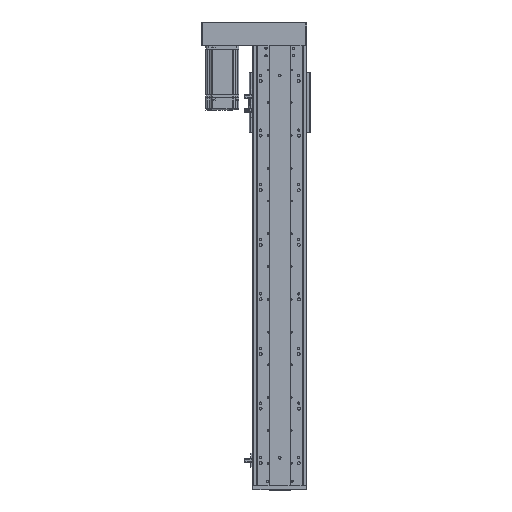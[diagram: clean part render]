
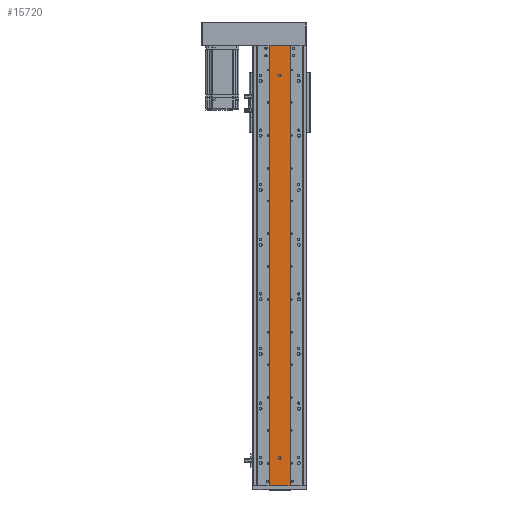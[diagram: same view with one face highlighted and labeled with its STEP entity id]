
A CAD part, top view. The second image highlights one B-rep face of the part: STEP entity #15720.
In plain terms, the highlighted planar face has unit normal (0, 0, 1).
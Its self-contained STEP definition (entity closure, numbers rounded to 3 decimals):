
#2155 = VERTEX_POINT ( 'NONE', #5164 ) ;
#2215 = VERTEX_POINT ( 'NONE', #5266 ) ;
#2227 = VERTEX_POINT ( 'NONE', #5229 ) ;
#2230 = VERTEX_POINT ( 'NONE', #5246 ) ;
#5164 = CARTESIAN_POINT ( 'NONE',  ( -10607.079, 806., -17040.86 ) ) ;
#5229 = CARTESIAN_POINT ( 'NONE',  ( -10645.079, 806., -17040.86 ) ) ;
#5246 = CARTESIAN_POINT ( 'NONE',  ( -10645.079, 0., -17040.86 ) ) ;
#5266 = CARTESIAN_POINT ( 'NONE',  ( -10607.079, 0., -17040.86 ) ) ;
#6602 = DIRECTION ( 'NONE',  ( -1., 0., 0. ) ) ;
#6621 = CARTESIAN_POINT ( 'NONE',  ( -10626.079, 751., -17040.86 ) ) ;
#6630 = DIRECTION ( 'NONE',  ( 0., 0., -1. ) ) ;
#8585 = DIRECTION ( 'NONE',  ( 0., 0., -1. ) ) ;
#8596 = CARTESIAN_POINT ( 'NONE',  ( -10626.079, 51., -17040.86 ) ) ;
#8599 = DIRECTION ( 'NONE',  ( -1., 0., 0. ) ) ;
#15720 = ADVANCED_FACE ( 'NONE', ( #31021, #31036, #31025 ), #27833, .F. ) ;
#17073 = LINE ( 'NONE', #18902, #17115 ) ;
#17115 = VECTOR ( 'NONE', #18899, 1000. ) ;
#17774 = CARTESIAN_POINT ( 'NONE',  ( -10628.579, 51., -17040.86 ) ) ;
#17969 = CARTESIAN_POINT ( 'NONE',  ( -10645.079, 0., -17040.86 ) ) ;
#17988 = DIRECTION ( 'NONE',  ( 1., 0., 0. ) ) ;
#18037 = DIRECTION ( 'NONE',  ( 0., 0., -1. ) ) ;
#18057 = DIRECTION ( 'NONE',  ( -1., 0., 0. ) ) ;
#18058 = CARTESIAN_POINT ( 'NONE',  ( -10626.079, 751., -17040.86 ) ) ;
#18067 = CARTESIAN_POINT ( 'NONE',  ( -10645.079, 806., -17040.86 ) ) ;
#18075 = CARTESIAN_POINT ( 'NONE',  ( -10626.079, 51., -17040.86 ) ) ;
#18079 = CARTESIAN_POINT ( 'NONE',  ( -10645.079, 806., -17040.86 ) ) ;
#18081 = DIRECTION ( 'NONE',  ( 0., 0., -1. ) ) ;
#18082 = DIRECTION ( 'NONE',  ( -1., 0., 0. ) ) ;
#18086 = DIRECTION ( 'NONE',  ( 0., -1., 0. ) ) ;
#18091 = DIRECTION ( 'NONE',  ( 1., 0., 0. ) ) ;
#18899 = DIRECTION ( 'NONE',  ( 0., -1., 0. ) ) ;
#18902 = CARTESIAN_POINT ( 'NONE',  ( -10607.079, 806., -17040.86 ) ) ;
#19669 = EDGE_LOOP ( 'NONE', ( #44156, #44072 ) ) ;
#19681 = EDGE_LOOP ( 'NONE', ( #44184, #44040 ) ) ;
#19745 = EDGE_LOOP ( 'NONE', ( #44012, #44143, #44119, #44029 ) ) ;
#21009 = AXIS2_PLACEMENT_3D ( 'NONE', #27824, #27807, #27830 ) ;
#21280 = AXIS2_PLACEMENT_3D ( 'NONE', #18075, #18081, #18082 ) ;
#21291 = AXIS2_PLACEMENT_3D ( 'NONE', #18058, #18037, #18057 ) ;
#26365 = CARTESIAN_POINT ( 'NONE',  ( -10623.579, 751., -17040.86 ) ) ;
#26374 = CARTESIAN_POINT ( 'NONE',  ( -10623.579, 51., -17040.86 ) ) ;
#26382 = CARTESIAN_POINT ( 'NONE',  ( -10628.579, 751., -17040.86 ) ) ;
#27807 = DIRECTION ( 'NONE',  ( 0., 0., -1. ) ) ;
#27824 = CARTESIAN_POINT ( 'NONE',  ( -10645.079, 806., -17040.86 ) ) ;
#27830 = DIRECTION ( 'NONE',  ( -1., 0., 0. ) ) ;
#27833 = PLANE ( 'NONE',  #21009 ) ;
#28138 = CIRCLE ( 'NONE', #47214, 2.5 ) ;
#28280 = CIRCLE ( 'NONE', #47260, 2.5 ) ;
#31021 = FACE_BOUND ( 'NONE', #19681, .T. ) ;
#31025 = FACE_OUTER_BOUND ( 'NONE', #19745, .T. ) ;
#31036 = FACE_BOUND ( 'NONE', #19669, .T. ) ;
#33769 = LINE ( 'NONE', #17969, #33777 ) ;
#33777 = VECTOR ( 'NONE', #17988, 1000. ) ;
#33807 = VECTOR ( 'NONE', #18091, 1000. ) ;
#33811 = VECTOR ( 'NONE', #18086, 1000. ) ;
#33830 = CIRCLE ( 'NONE', #21280, 2.5 ) ;
#33831 = LINE ( 'NONE', #18079, #33811 ) ;
#33833 = CIRCLE ( 'NONE', #21291, 2.5 ) ;
#33855 = LINE ( 'NONE', #18067, #33807 ) ;
#35723 = VERTEX_POINT ( 'NONE', #26365 ) ;
#35790 = VERTEX_POINT ( 'NONE', #26374 ) ;
#35798 = VERTEX_POINT ( 'NONE', #26382 ) ;
#35809 = VERTEX_POINT ( 'NONE', #17774 ) ;
#35980 = EDGE_CURVE ( 'NONE', #2230, #2215, #33769, .T. ) ;
#36003 = EDGE_CURVE ( 'NONE', #35798, #35723, #33833, .T. ) ;
#36016 = EDGE_CURVE ( 'NONE', #2227, #2155, #33855, .T. ) ;
#36017 = EDGE_CURVE ( 'NONE', #2227, #2230, #33831, .T. ) ;
#36018 = EDGE_CURVE ( 'NONE', #35809, #35790, #33830, .T. ) ;
#36089 = EDGE_CURVE ( 'NONE', #2155, #2215, #17073, .T. ) ;
#44012 = ORIENTED_EDGE ( 'NONE', *, *, #35980, .T. ) ;
#44026 = EDGE_CURVE ( 'NONE', #35790, #35809, #28138, .T. ) ;
#44029 = ORIENTED_EDGE ( 'NONE', *, *, #36017, .T. ) ;
#44040 = ORIENTED_EDGE ( 'NONE', *, *, #36003, .T. ) ;
#44072 = ORIENTED_EDGE ( 'NONE', *, *, #36018, .T. ) ;
#44119 = ORIENTED_EDGE ( 'NONE', *, *, #36016, .F. ) ;
#44143 = ORIENTED_EDGE ( 'NONE', *, *, #36089, .F. ) ;
#44150 = EDGE_CURVE ( 'NONE', #35723, #35798, #28280, .T. ) ;
#44156 = ORIENTED_EDGE ( 'NONE', *, *, #44026, .T. ) ;
#44184 = ORIENTED_EDGE ( 'NONE', *, *, #44150, .T. ) ;
#47214 = AXIS2_PLACEMENT_3D ( 'NONE', #8596, #8585, #8599 ) ;
#47260 = AXIS2_PLACEMENT_3D ( 'NONE', #6621, #6630, #6602 ) ;
